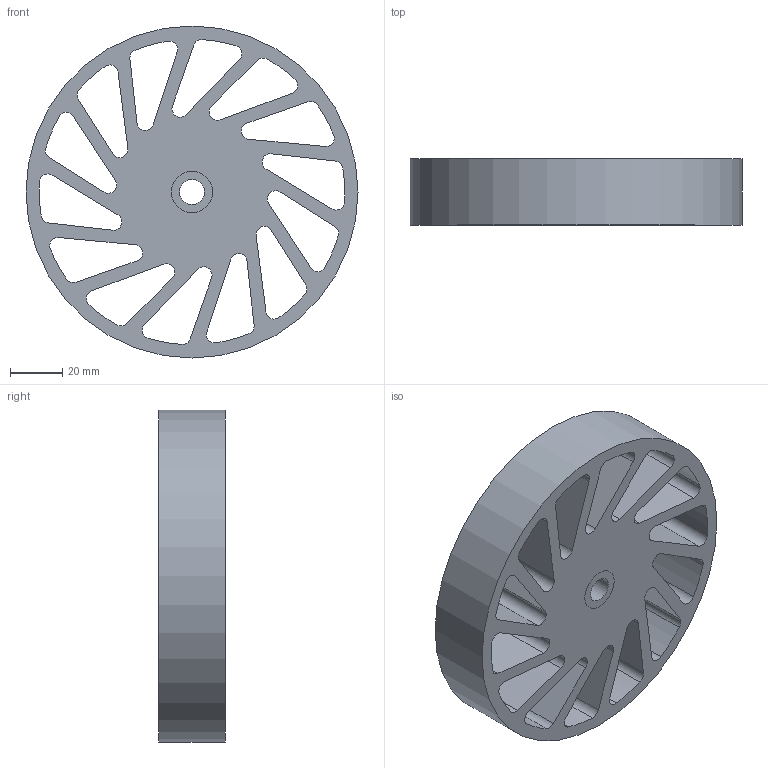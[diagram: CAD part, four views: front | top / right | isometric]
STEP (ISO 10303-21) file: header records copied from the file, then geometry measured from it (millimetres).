
FILE_DESCRIPTION(/* description */ (''),/* implementation_level */ '2;1');
FILE_NAME(/* name */ 'C:\Users\Owner\Desktop\Meridian Stuff\Oilite\NCWOB-440-XXX.stp',/* time_stamp */ '2023-05-22T17:06:18-05:00',/* author */ ('ASG'),/* organization */ ('Meridian Laboratory '),/* preprocessor_version */ 'ST-DEVELOPER v19',/* originating_system */ 'Autodesk Inventor 2023',/* authorisation */ '');
FILE_SCHEMA (('AUTOMOTIVE_DESIGN { 1 0 10303 214 3 1 1 }'));
Length unit declared in the file: inch
Products named in the file (1): NCWOB-440-XXX
Bounding box: 127 x 25.4 x 127 mm (x, y, z)
Volume: 178597.6 mm3; surface area: 58243.8 mm2
Topology: 2 solids, 2 shells, 92 faces, 264 edges, 176 vertices
Faces by surface type: cylinder 60, plane 32
Full cylindrical faces by diameter (mm): 9.55 x1, 15.875 x2, 127 x1
Entity records: 3285 total; most frequent: DIRECTION 570, CARTESIAN_POINT 533, ORIENTED_EDGE 528, EDGE_CURVE 264, AXIS2_PLACEMENT_3D 213, VERTEX_POINT 176, LINE 144, VECTOR 144
